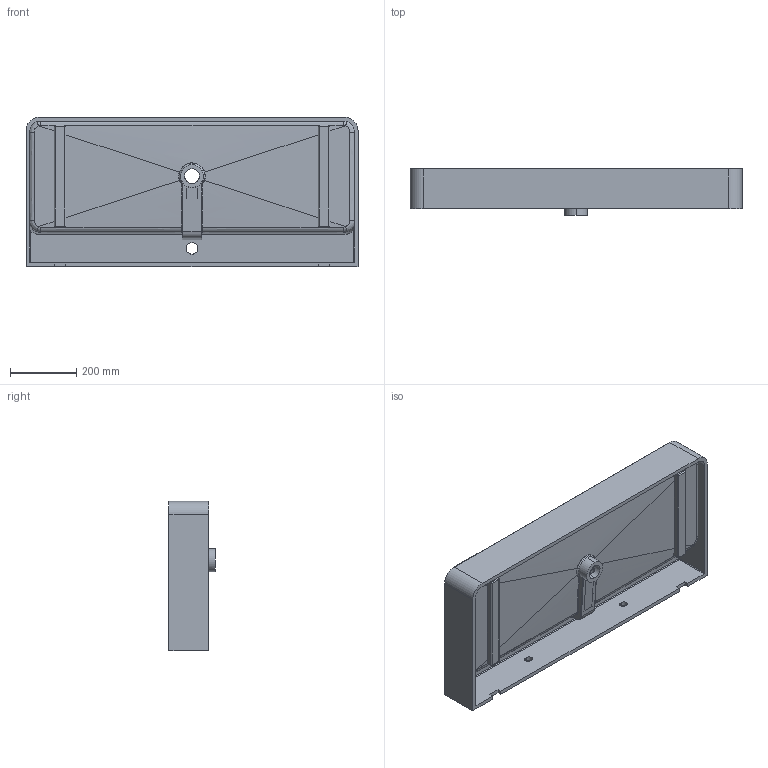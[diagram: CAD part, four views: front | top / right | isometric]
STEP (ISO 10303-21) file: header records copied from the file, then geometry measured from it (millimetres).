
FILE_DESCRIPTION (( 'STEP AP214' ), '1' );
FILE_NAME ('AK1000.STEP', '2016-03-26T14:31:50', ( '旮僅薊襠http://www.deepbbs.org' ), ( 'http://www.deepbbs.org' ), 'SwSTEP 2.0', 'SolidWorks 2014', '' );
FILE_SCHEMA (( 'AUTOMOTIVE_DESIGN' ));
Length unit declared in the file: millimetre
Products named in the file (1): AK1000
Bounding box: 1000 x 140 x 450 mm (x, y, z)
Volume: 11150566.9 mm3; surface area: 1751211.8 mm2
Topology: 1 solids, 1 shells, 213 faces, 548 edges, 327 vertices
Faces by surface type: cylinder 69, bspline 64, plane 56, sphere 14, torus 6, cone 4
Entity records: 12560 total; most frequent: CARTESIAN_POINT 7977, ORIENTED_EDGE 1076, DIRECTION 785, EDGE_CURVE 538, VERTEX_POINT 327, AXIS2_PLACEMENT_3D 294, EDGE_LOOP 223, ADVANCED_FACE 213
